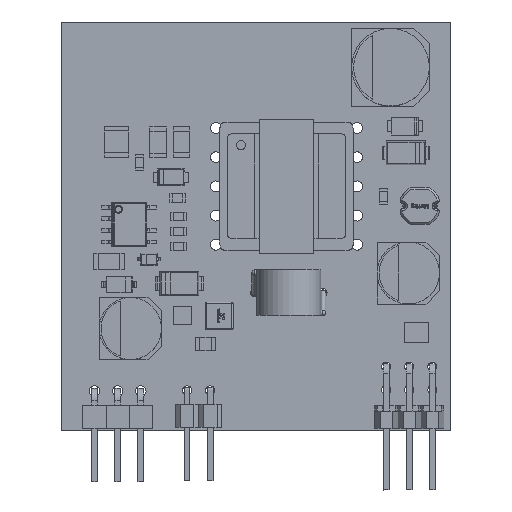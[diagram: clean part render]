
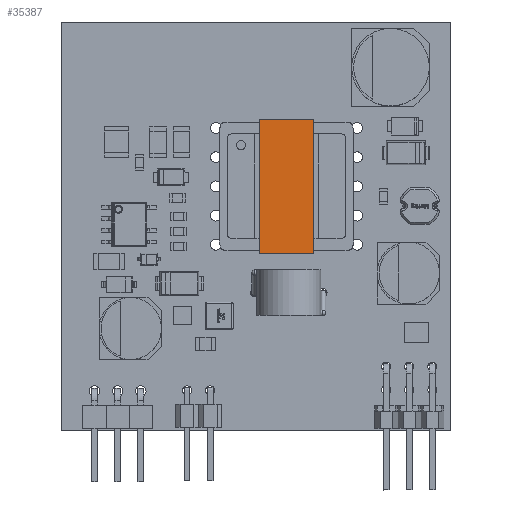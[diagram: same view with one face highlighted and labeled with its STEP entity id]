
A CAD part, top view. The second image highlights one B-rep face of the part: STEP entity #35387.
In plain terms, the highlighted planar face has unit normal (0, 0, 1).
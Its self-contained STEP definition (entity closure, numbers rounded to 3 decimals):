
#35354 = VERTEX_POINT('',#35355);
#35355 = CARTESIAN_POINT('',(-3.,7.365,15.24));
#35361 = EDGE_CURVE('',#35362,#35354,#35364,.T.);
#35362 = VERTEX_POINT('',#35363);
#35363 = CARTESIAN_POINT('',(3.,7.365,15.24));
#35364 = LINE('',#35365,#35366);
#35365 = CARTESIAN_POINT('',(3.,7.365,15.24));
#35366 = VECTOR('',#35367,1.);
#35367 = DIRECTION('',(-1.,0.,0.));
#35387 = ADVANCED_FACE('',(#35388),#35413,.T.);
#35388 = FACE_BOUND('',#35389,.T.);
#35389 = EDGE_LOOP('',(#35390,#35398,#35406,#35412));
#35390 = ORIENTED_EDGE('',*,*,#35391,.T.);
#35391 = EDGE_CURVE('',#35354,#35392,#35394,.T.);
#35392 = VERTEX_POINT('',#35393);
#35393 = CARTESIAN_POINT('',(-3.,-7.365,15.24));
#35394 = LINE('',#35395,#35396);
#35395 = CARTESIAN_POINT('',(-3.,7.365,15.24));
#35396 = VECTOR('',#35397,1.);
#35397 = DIRECTION('',(0.,-1.,0.));
#35398 = ORIENTED_EDGE('',*,*,#35399,.F.);
#35399 = EDGE_CURVE('',#35400,#35392,#35402,.T.);
#35400 = VERTEX_POINT('',#35401);
#35401 = CARTESIAN_POINT('',(3.,-7.365,15.24));
#35402 = LINE('',#35403,#35404);
#35403 = CARTESIAN_POINT('',(3.,-7.365,15.24));
#35404 = VECTOR('',#35405,1.);
#35405 = DIRECTION('',(-1.,0.,0.));
#35406 = ORIENTED_EDGE('',*,*,#35407,.F.);
#35407 = EDGE_CURVE('',#35362,#35400,#35408,.T.);
#35408 = LINE('',#35409,#35410);
#35409 = CARTESIAN_POINT('',(3.,7.365,15.24));
#35410 = VECTOR('',#35411,1.);
#35411 = DIRECTION('',(0.,-1.,0.));
#35412 = ORIENTED_EDGE('',*,*,#35361,.T.);
#35413 = PLANE('',#35414);
#35414 = AXIS2_PLACEMENT_3D('',#35415,#35416,#35417);
#35415 = CARTESIAN_POINT('',(3.,-3.683,15.24));
#35416 = DIRECTION('',(0.,0.,1.));
#35417 = DIRECTION('',(1.,0.,0.));
